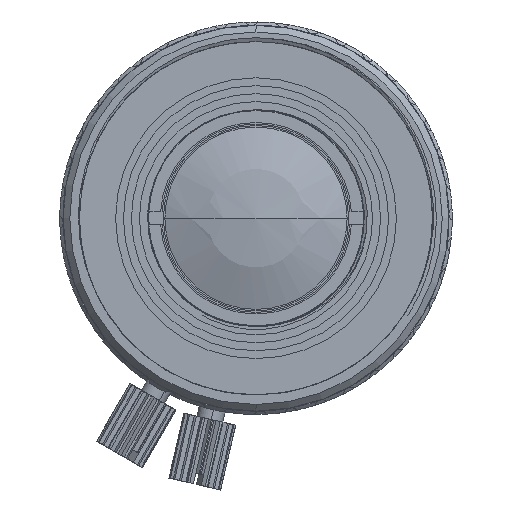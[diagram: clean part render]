
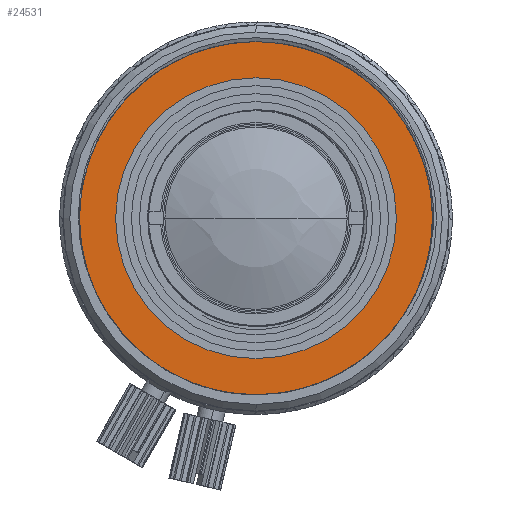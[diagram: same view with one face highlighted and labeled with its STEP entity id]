
A CAD part, left-side view. The second image highlights one B-rep face of the part: STEP entity #24531.
In plain terms, the highlighted planar face has unit normal (-1, 0, 0).
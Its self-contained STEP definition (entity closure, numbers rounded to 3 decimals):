
#590 = CARTESIAN_POINT ( 'NONE',  ( -32.3, 0., 0. ) ) ;
#3085 = CIRCLE ( 'NONE', #30157, 10.554 ) ;
#3938 = CARTESIAN_POINT ( 'NONE',  ( -32.3, 0., 0. ) ) ;
#7875 = CARTESIAN_POINT ( 'NONE',  ( -32.3, 0., 0. ) ) ;
#9334 = AXIS2_PLACEMENT_3D ( 'NONE', #3938, #42265, #16577 ) ;
#9433 = DIRECTION ( 'NONE',  ( -1., 0., 0. ) ) ;
#16577 = DIRECTION ( 'NONE',  ( 0., 0., 1. ) ) ;
#20217 = EDGE_CURVE ( 'NONE', #58085, #32884, #70719, .T. ) ;
#21213 = EDGE_LOOP ( 'NONE', ( #42001, #26717 ) ) ;
#21384 = FACE_BOUND ( 'NONE', #21213, .T. ) ;
#21503 = CARTESIAN_POINT ( 'NONE',  ( -32.3, 0., 0. ) ) ;
#21789 = DIRECTION ( 'NONE',  ( 0., 0., 1. ) ) ;
#22838 = AXIS2_PLACEMENT_3D ( 'NONE', #7875, #9433, #60859 ) ;
#23365 = VERTEX_POINT ( 'NONE', #49107 ) ;
#23647 = AXIS2_PLACEMENT_3D ( 'NONE', #21503, #72044, #53094 ) ;
#23716 = EDGE_CURVE ( 'NONE', #23365, #49532, #3085, .T. ) ;
#24531 = ADVANCED_FACE ( 'NONE', ( #40724, #21384 ), #58896, .T. ) ;
#26717 = ORIENTED_EDGE ( 'NONE', *, *, #23716, .F. ) ;
#30157 = AXIS2_PLACEMENT_3D ( 'NONE', #590, #64680, #32236 ) ;
#32236 = DIRECTION ( 'NONE',  ( 0., 0., 1. ) ) ;
#32884 = VERTEX_POINT ( 'NONE', #63330 ) ;
#39467 = CARTESIAN_POINT ( 'NONE',  ( -32.3, 0., 0. ) ) ;
#40724 = FACE_OUTER_BOUND ( 'NONE', #41064, .T. ) ;
#41064 = EDGE_LOOP ( 'NONE', ( #73000, #47665 ) ) ;
#42001 = ORIENTED_EDGE ( 'NONE', *, *, #73698, .F. ) ;
#42265 = DIRECTION ( 'NONE',  ( -1., 0., 0. ) ) ;
#46649 = DIRECTION ( 'NONE',  ( -1., 0., 0. ) ) ;
#46935 = EDGE_CURVE ( 'NONE', #32884, #58085, #59160, .T. ) ;
#47665 = ORIENTED_EDGE ( 'NONE', *, *, #46935, .T. ) ;
#49107 = CARTESIAN_POINT ( 'NONE',  ( -32.3, 0., -10.554 ) ) ;
#49532 = VERTEX_POINT ( 'NONE', #50135 ) ;
#50135 = CARTESIAN_POINT ( 'NONE',  ( -32.3, 0., 10.554 ) ) ;
#53094 = DIRECTION ( 'NONE',  ( 0., 0., 1. ) ) ;
#58085 = VERTEX_POINT ( 'NONE', #66941 ) ;
#58896 = PLANE ( 'NONE',  #73118 ) ;
#59160 = CIRCLE ( 'NONE', #22838, 13.725 ) ;
#60859 = DIRECTION ( 'NONE',  ( 0., 0., 1. ) ) ;
#63330 = CARTESIAN_POINT ( 'NONE',  ( -32.3, 0., -13.725 ) ) ;
#64680 = DIRECTION ( 'NONE',  ( -1., 0., 0. ) ) ;
#66941 = CARTESIAN_POINT ( 'NONE',  ( -32.3, 0., 13.725 ) ) ;
#70719 = CIRCLE ( 'NONE', #23647, 13.725 ) ;
#72044 = DIRECTION ( 'NONE',  ( -1., 0., 0. ) ) ;
#73000 = ORIENTED_EDGE ( 'NONE', *, *, #20217, .T. ) ;
#73118 = AXIS2_PLACEMENT_3D ( 'NONE', #39467, #46649, #21789 ) ;
#73698 = EDGE_CURVE ( 'NONE', #49532, #23365, #79313, .T. ) ;
#79313 = CIRCLE ( 'NONE', #9334, 10.554 ) ;
